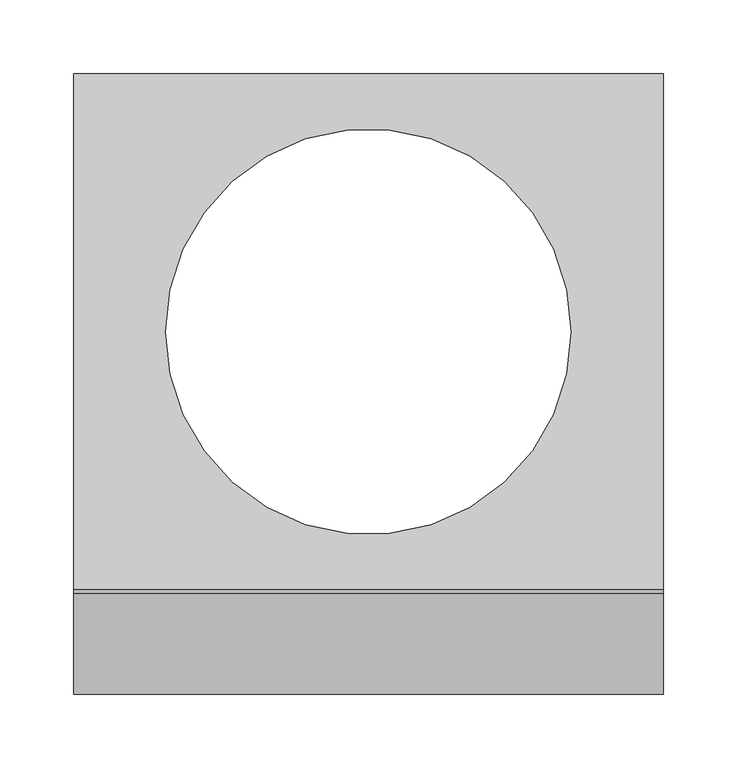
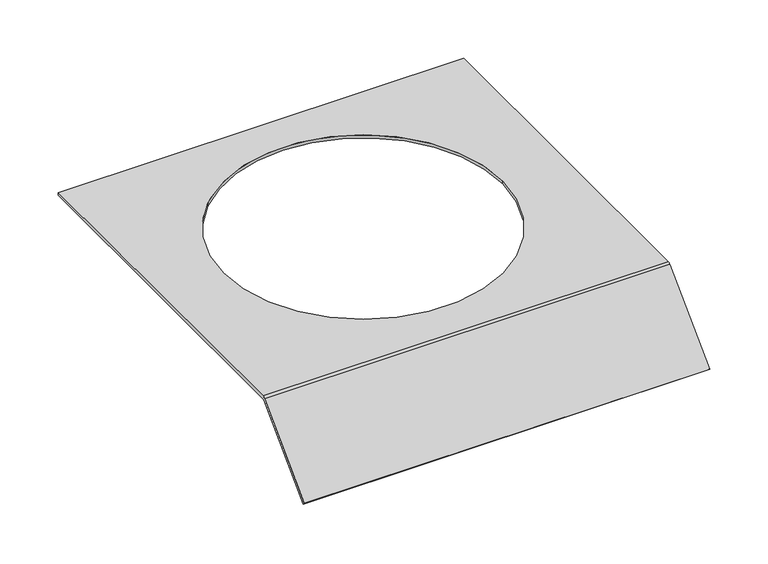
"""IFC4 building model written with IfcOpenShell, lengths in millimetres: proxy geometry, Electrical_Installation_Hager_Covers-With-Installation-Opening-R10 : Electrical_Installation_Hager_Covers-With-Installation-Opening-R10."""

from ifc_helpers import new_model, si_unit, frame, origin, place, context, project, spatial, polyline, circle_curve, source, transform, mapped, element, save
from ifc_brep_helpers import plane_surface, cylinder_surface, revolved_surface, advanced_brep


def electrical_fixtures_c0643166(model_context):
    return source(origin(), model_context, "Body", "AdvancedBrep", [
        advanced_brep(
        [(0.0, 175.0, 40.5), (0.0, 175.0, 37.5), (0.0, -174.8229541, 37.5), (0.0, -175.8322972, 37.0819164), (0.0, -243.712807, -30.7985934), (0.0, -245.8341273, -28.6772731), (0.0, -177.8206472, 39.336207), (0.0, -175.0110025, 40.5), (400.0, 175.0, 40.5), (400.0, -175.0110025, 40.5), (400.0, -177.8206472, 39.336207), (400.0, -245.8341273, -28.6772731), (400.0, -243.712807, -30.7985934), (400.0, -175.8322972, 37.0819164), (400.0, -174.8229541, 37.5), (400.0, 175.0, 37.5), (62.5, 0.0, 37.5), (337.5, 0.0, 37.5), (337.5, 0.0, 40.5), (62.5, 0.0, 40.5)],
        [
            (0, 1),
            (1, 2),
            (2, 3, circle_curve(frame((0.0, -174.8229541, 36.0725733), z_axis=(1.0, 0.0, 0.0), x_axis=(0.0, 1.0, 0.0)), 1.4274267)),
            (3, 4),
            (4, 5),
            (5, 6),
            (6, 7, circle_curve(frame((0.0, -175.0110025, 36.5265623), z_axis=(-1.0, 0.0, 0.0), x_axis=(0.0, 1.0, 0.0)), 3.9734377)),
            (7, 0),
            (8, 9),
            (9, 10, circle_curve(frame((400.0, -175.0110025, 36.5265623), z_axis=(1.0, 0.0, 0.0), x_axis=(0.0, 1.0, 0.0)), 3.9734377)),
            (10, 11),
            (11, 12),
            (12, 13),
            (13, 14, circle_curve(frame((400.0, -174.8229541, 36.0725733), z_axis=(-1.0, 0.0, 0.0), x_axis=(0.0, 1.0, 0.0)), 1.4274267)),
            (14, 15),
            (15, 8),
            (0, 8),
            (15, 1),
            (14, 2),
            (16, 17, circle_curve(frame((200.0, 0.0, 37.5), z_axis=(0.0, 0.0, 1.0), x_axis=(1.0, 0.0, 0.0)), 137.5)),
            (17, 16, circle_curve(frame((200.0, 0.0, 37.5), z_axis=(0.0, 0.0, 1.0), x_axis=(1.0, 0.0, 0.0)), 137.5)),
            (13, 3),
            (12, 4),
            (11, 5),
            (10, 6),
            (9, 7),
            (18, 19, circle_curve(frame((200.0, 0.0, 40.5), z_axis=(0.0, 0.0, -1.0), x_axis=(1.0, 0.0, 0.0)), 137.5)),
            (19, 18, circle_curve(frame((200.0, 0.0, 40.5), z_axis=(0.0, 0.0, -1.0), x_axis=(1.0, 0.0, 0.0)), 137.5)),
            (16, 19),
            (18, 17),
        ],
        [
            plane_surface(frame((0.0, 0.3269864, 15.0), z_axis=(-1.0, 0.0, 0.0), x_axis=(0.0, 0.0, 1.0))),
            plane_surface(frame((400.0, 0.3269864, 15.0), z_axis=(1.0, 0.0, 0.0), x_axis=(0.0, 0.0, 1.0))),
            plane_surface(frame((0.0, 175.0, 40.5), z_axis=(0.0, 1.0, 0.0), x_axis=(1.0, 0.0, 0.0))),
            plane_surface(frame((0.0, 175.0, 37.5), z_axis=(0.0, 0.0, -1.0), x_axis=(1.0, 0.0, 0.0))),
            revolved_surface(polyline([(400.0, -173.3955274, 36.0725733), (0.0, -173.3955274, 36.0725733)]), (0.0, -174.8229541, 36.0725733), (1.0, 0.0, 0.0)),
            plane_surface(frame((0.0, -175.8322972, 37.0819164), z_axis=(0.0, 0.7071067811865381, -0.7071067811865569), x_axis=(1.0, 0.0, 0.0))),
            plane_surface(frame((0.0, -243.712807, -30.7985934), z_axis=(0.0, -0.7071067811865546, -0.7071067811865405), x_axis=(1.0, 0.0, 0.0))),
            plane_surface(frame((0.0, -245.8341273, -28.6772731), z_axis=(0.0, -0.7071067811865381, 0.707106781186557), x_axis=(1.0, 0.0, 0.0))),
            cylinder_surface(frame((0.0, -175.0110025, 36.5265623), z_axis=(-1.0, 0.0, 0.0), x_axis=(0.0, 1.0, 0.0)), 3.9734377),
            plane_surface(frame((0.0, -175.0110025, 40.5), z_axis=(0.0, 0.0, 1.0), x_axis=(1.0, 0.0, 0.0))),
            revolved_surface(polyline([(337.5, 0.0, 40.5), (337.5, 0.0, 37.5)]), (200.0, 0.0, 0.0), (0.0, 0.0, 1.0)),
        ],
        [
            (0, [[1, 2, 3, 4, 5, 6, 7, 8]]),
            (1, [[9, 10, 11, 12, 13, 14, 15, 16]]),
            (2, [[-1, 17, -16, 18]]),
            (3, [[-2, -18, -15, 19], [20, 21]]),
            (4, [[-3, -19, -14, 22]]),
            (5, [[-4, -22, -13, 23]]),
            (6, [[-5, -23, -12, 24]]),
            (7, [[-6, -24, -11, 25]]),
            (8, [[-7, -25, -10, 26]]),
            (9, [[-8, -26, -9, -17], [27, 28]]),
            (10, [[29, -27, 30, -20]]),
            (10, [[-29, -21, -30, -28]]),
        ],
    ),
    ])


if __name__ == "__main__":
    model = new_model("IFC4")
    model_context = context("Model", 3, world=origin())
    ifc_project = project(units=[si_unit("LENGTHUNIT", "METRE", prefix="MILLI")], contexts=[model_context])
    site = spatial("IfcSite", under=ifc_project)
    building = spatial("IfcBuilding", under=site)
    placement = place(None, origin())
    electrical_fixtures_shape = electrical_fixtures_c0643166(model_context)
    element("IfcBuildingElementProxy", 1, Name="Electrical_Installation_Hager_Covers-With-Installation-Opening-R10 : Electrical_Installation_Hager_Covers-With-Installation-Opening-R10", ObjectType="Electrical_Installation_Hager_Covers-With-Installation-Opening-R10 : Electrical_Installation_Hager_Covers-With-Installation-Opening-R10", at=placement, inside=building, context=model_context, shape_type="MappedRepresentation", body=[
        mapped(electrical_fixtures_shape, transform((0.0, 0.0, 0.0), x_axis=(1.0, 0.0, 0.0), y_axis=(0.0, 1.0, 0.0), z_axis=(0.0, 0.0, 1.0))),
    ])
    save(model, "model.ifc")
